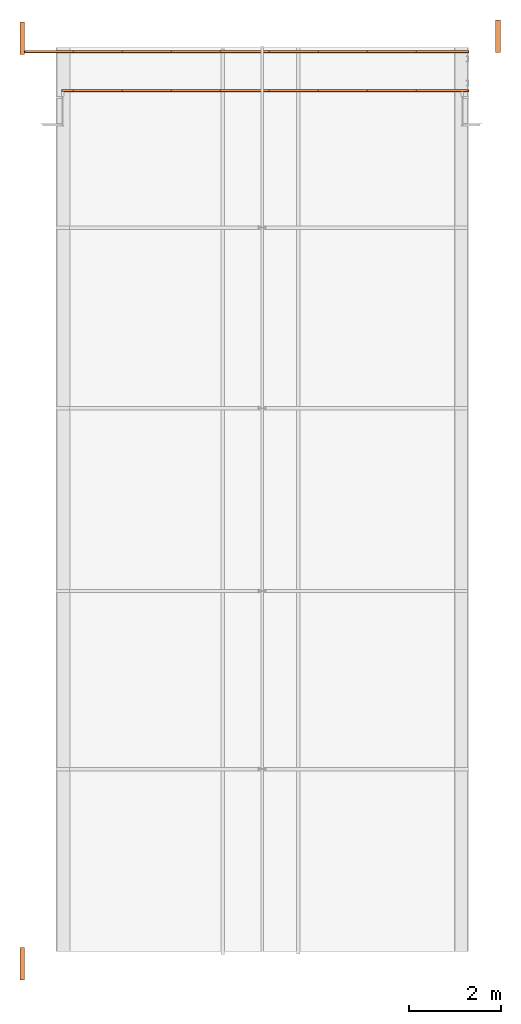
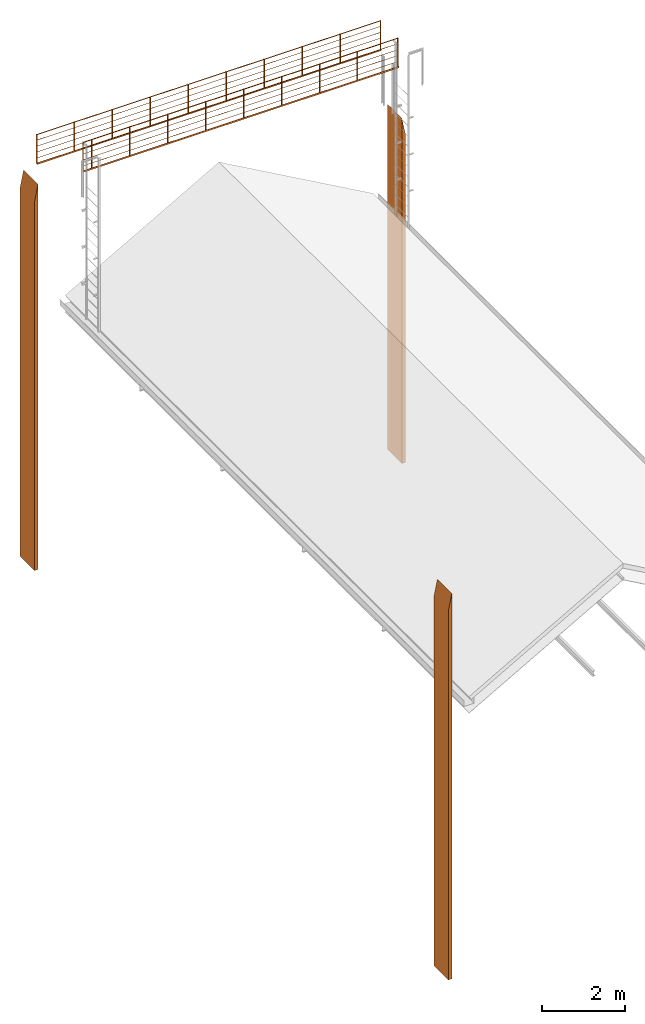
# One storey, part 10 of 10: 5 proxies.
"""IFC2X3 building model written with IfcOpenShell, lengths in metres."""

from ifc_helpers import new_model, entity, si_unit, converted_unit, derived_unit, direction, frame, frame_2d, origin, origin_2d_with_axis, place, context, subcontext, project, spatial, polyline, rectangle, circle, outline, extrude, source, transform, mapped, material, material_list, type_object, type_shapes, element, save


model = new_model("IFC2X3")

# Units and contexts
model_context = context("Model", 3, precision=1e-05, world=origin(), true_north=direction((6.12303176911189e-17, 1.0)))
body_context = subcontext(model_context, "Body", "Model", "MODEL_VIEW")
ifc_project = project(units=[si_unit("LENGTHUNIT", "METRE"), si_unit("AREAUNIT", "SQUARE_METRE"), si_unit("VOLUMEUNIT", "CUBIC_METRE"), converted_unit("PLANEANGLEUNIT", "DEGREE", entity("IfcRatioMeasure", 0.0174532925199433), si_unit("PLANEANGLEUNIT", "RADIAN"), dimensions=[0, 0, 0, 0, 0, 0, 0]), si_unit("MASSUNIT", "GRAM", prefix="KILO"), derived_unit("MASSDENSITYUNIT", [(si_unit("MASSUNIT", "GRAM", prefix="KILO"), 1), (si_unit("LENGTHUNIT", "METRE"), -3)]), derived_unit("MOMENTOFINERTIAUNIT", [(si_unit("LENGTHUNIT", "METRE"), 4)]), si_unit("TIMEUNIT", "SECOND"), si_unit("FREQUENCYUNIT", "HERTZ"), si_unit("THERMODYNAMICTEMPERATUREUNIT", "DEGREE_CELSIUS"), derived_unit("THERMALTRANSMITTANCEUNIT", [(si_unit("MASSUNIT", "GRAM", prefix="KILO"), 1), (si_unit("THERMODYNAMICTEMPERATUREUNIT", "KELVIN"), -1), (si_unit("TIMEUNIT", "SECOND"), -3)]), derived_unit("VOLUMETRICFLOWRATEUNIT", [(si_unit("LENGTHUNIT", "METRE"), 3), (si_unit("TIMEUNIT", "SECOND"), -1)]), si_unit("ELECTRICCURRENTUNIT", "AMPERE"), si_unit("ELECTRICVOLTAGEUNIT", "VOLT"), si_unit("POWERUNIT", "WATT"), si_unit("FORCEUNIT", "NEWTON", prefix="KILO"), si_unit("ILLUMINANCEUNIT", "LUX"), si_unit("LUMINOUSFLUXUNIT", "LUMEN"), si_unit("LUMINOUSINTENSITYUNIT", "CANDELA"), derived_unit("USERDEFINED", [(si_unit("MASSUNIT", "GRAM", prefix="KILO"), -1), (si_unit("LENGTHUNIT", "METRE"), -2), (si_unit("TIMEUNIT", "SECOND"), 3), (si_unit("LUMINOUSFLUXUNIT", "LUMEN"), 1)]), derived_unit("LINEARVELOCITYUNIT", [(si_unit("LENGTHUNIT", "METRE"), 1), (si_unit("TIMEUNIT", "SECOND"), -1)]), si_unit("PRESSUREUNIT", "PASCAL"), derived_unit("USERDEFINED", [(si_unit("LENGTHUNIT", "METRE"), -2), (si_unit("MASSUNIT", "GRAM", prefix="KILO"), 1), (si_unit("TIMEUNIT", "SECOND"), -2)]), derived_unit("LINEARFORCEUNIT", [(si_unit("MASSUNIT", "GRAM", prefix="KILO"), 1), (si_unit("LENGTHUNIT", "METRE"), 1), (si_unit("TIMEUNIT", "SECOND"), -2), (si_unit("LENGTHUNIT", "METRE"), -1)]), derived_unit("PLANARFORCEUNIT", [(si_unit("MASSUNIT", "GRAM", prefix="KILO"), 1), (si_unit("LENGTHUNIT", "METRE"), 1), (si_unit("TIMEUNIT", "SECOND"), -2), (si_unit("LENGTHUNIT", "METRE"), -2)])], contexts=[model_context])

# Site, building, storey
site_placement = place(None, origin())
site = spatial("IfcSite", under=ifc_project, at=site_placement, Name="Superficie", CompositionType="ELEMENT")
building_placement = place(site_placement, origin())
building = spatial("IfcBuilding", under=site, at=building_placement, Name="Telegestiones", CompositionType="ELEMENT")
storey_placement = place(building_placement, frame((0.0, 0.0, 13.23)))
storey = spatial("IfcBuildingStorey", under=building, at=storey_placement, Name="Nivel 3_SUP", CompositionType="ELEMENT", Elevation=13.23)

# Proxies
ifc_material_1 = material(Name="Albañilería expuesta")
ifc_material_list_1 = material_list([ifc_material_1, ifc_material_1])
ifc_material_list_2 = material_list([ifc_material_1, ifc_material_1])
building_element_proxy_type_1 = type_object("IfcBuildingElementProxyType", Name="ARQ-MU-EXT-Lad:Tipo 1", PredefinedType="NOTDEFINED", material=ifc_material_list_2)
shared_shape_1 = source(origin(), body_context, "Body", "SweptSolid", [
    extrude(outline(polyline([(-0.333333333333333, -0.0333333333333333), (0.166666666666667, -0.0333333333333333), (0.166666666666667, 0.0666666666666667), (-0.333333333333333, -0.0333333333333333)])), frame((-0.225000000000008, 0.373333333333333, 0.166666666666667), z_axis=(1.0, 0.0, 0.0), x_axis=(0.0, 0.0, -1.0)), (0.0, 0.0, 1.0), 0.7),
    extrude(rectangle(XDim=0.1, YDim=0.7, at=origin_2d_with_axis()), frame((0.124999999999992, 0.39, -10.88), z_axis=(0.0, 0.0, 1.0), x_axis=(0.0, -1.0, 0.0)), (0.0, 0.0, 1.0), 10.88),
])
type_shapes(building_element_proxy_type_1, [shared_shape_1])
proxy_1_placement = place(storey_placement, frame((5.69428977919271, 13.8229182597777, 3.57), z_axis=(0.0, 0.0, 1.0), x_axis=(0.0, 1.0, 0.0)))
element("IfcBuildingElementProxy", 1, at=proxy_1_placement, inside=storey, type_object=building_element_proxy_type_1, material=ifc_material_list_1, Name="ARQ-MU-EXT-Lad:Tipo 1", ObjectType="ARQ-MU-EXT-Lad:Tipo 1", context=body_context, shape_type="MappedRepresentation", body=[
    mapped(shared_shape_1, transform((0.0, 0.0, 0.0), scale=1.0)),
])
proxy_2_placement = place(storey_placement, frame((5.69428977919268, -6.20141348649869, 3.62), z_axis=(0.0, 0.0, 1.0), x_axis=(0.0, 1.0, 0.0)))
element("IfcBuildingElementProxy", 2, at=proxy_2_placement, inside=storey, type_object=building_element_proxy_type_1, material=ifc_material_1, Name="ARQ-MU-EXT-Lad:Tipo 1", ObjectType="ARQ-MU-EXT-Lad:Tipo 1", context=body_context, shape_type="MappedRepresentation", body=[
    mapped(shared_shape_1, transform((0.0, 0.0, 0.0), scale=1.0)),
])
ifc_material_list_3 = material_list([ifc_material_1, ifc_material_1])
building_element_proxy_type_2 = type_object("IfcBuildingElementProxyType", Name="ARQ-MU-EXT-Lad:Tipo 1", PredefinedType="NOTDEFINED", material=ifc_material_list_3)
shared_shape_2 = source(origin(), body_context, "Body", "SweptSolid", [
    extrude(outline(polyline([(-0.333333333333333, -0.0333333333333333), (0.166666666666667, -0.0333333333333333), (0.166666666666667, 0.0666666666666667), (-0.333333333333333, -0.0333333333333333)])), frame((-0.225000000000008, 0.323333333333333, 0.166666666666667), z_axis=(1.0, 0.0, 0.0), x_axis=(0.0, 0.0, -1.0)), (0.0, 0.0, 1.0), 0.7),
    extrude(rectangle(XDim=0.1, YDim=0.7, at=origin_2d_with_axis()), frame((0.124999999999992, 0.34, -9.69999999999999), z_axis=(0.0, 0.0, 1.0), x_axis=(0.0, -1.0, 0.0)), (0.0, 0.0, 1.0), 9.69999999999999),
])
type_shapes(building_element_proxy_type_2, [shared_shape_2])
proxy_3_placement = place(storey_placement, frame((15.2548126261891, 14.1186072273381, 1.92), z_axis=(0.0, 0.0, 1.0), x_axis=(0.0, -1.0, 0.0)))
element("IfcBuildingElementProxy", 3, at=proxy_3_placement, inside=storey, type_object=building_element_proxy_type_2, material=ifc_material_1, Name="ARQ-MU-EXT-Lad:Tipo 1", ObjectType="ARQ-MU-EXT-Lad:Tipo 1", context=body_context, shape_type="MappedRepresentation", body=[
    mapped(shared_shape_2, transform((0.0, 0.0, 0.0), scale=1.0)),
])
ifc_material_2 = material(Name="<Unnamed>")
ifc_material_list_4 = material_list([ifc_material_2, ifc_material_2, ifc_material_2, ifc_material_2, ifc_material_2, ifc_material_2, ifc_material_2, ifc_material_2, ifc_material_2, ifc_material_2, ifc_material_2, ifc_material_2, ifc_material_2, ifc_material_2, ifc_material_2, ifc_material_2])
ifc_material_list_5 = material_list([ifc_material_2, ifc_material_2, ifc_material_2, ifc_material_2, ifc_material_2, ifc_material_2, ifc_material_2, ifc_material_2, ifc_material_2, ifc_material_2, ifc_material_2, ifc_material_2, ifc_material_2, ifc_material_2, ifc_material_2, ifc_material_2])
building_element_proxy_type_3 = type_object("IfcBuildingElementProxyType", Name="ARQ-BAR- Pasarela cubierta 2:ARQ-BAR- Pasarela cubierta 2", PredefinedType="NOTDEFINED", material=ifc_material_list_5)
shared_shape_3 = source(origin(), body_context, "Body", "SweptSolid", [
    extrude(outline(polyline([(-0.0247866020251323, -0.00599999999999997), (0.0303822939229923, -0.00599999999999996), (0.0247866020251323, 0.00600000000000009), (-0.0303822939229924, 0.00600000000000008), (-0.0247866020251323, -0.00599999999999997)])), frame((0.812, 0.0320000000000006, 0.86372204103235), z_axis=(1.0, 0.0, 0.0), x_axis=(0.0, -0.906307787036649, 0.422618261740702)), (0.0, 0.0, 1.0), 8.786),
    extrude(circle(Radius=0.006, at=frame_2d((0.0, -3.38395977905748e-17), x_axis=(1.0, 0.0))), frame((0.812, 0.032585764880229, 0.17), z_axis=(1.0, 0.0, 0.0), x_axis=(0.0, 1.0, 0.0)), (0.0, 0.0, 1.0), 8.786),
    extrude(circle(Radius=0.006, at=origin_2d_with_axis()), frame((0.812, 0.0325857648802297, 0.7), z_axis=(1.0, 0.0, 0.0), x_axis=(0.0, 1.0, 0.0)), (0.0, 0.0, 1.0), 8.786),
    extrude(circle(Radius=0.006, at=origin_2d_with_axis()), frame((0.812, 0.0325857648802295, 0.52), z_axis=(1.0, 0.0, 0.0), x_axis=(0.0, 1.0, 0.0)), (0.0, 0.0, 1.0), 8.786),
    extrude(circle(Radius=0.006, at=origin_2d_with_axis()), frame((0.812, 0.0325857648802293, 0.35), z_axis=(1.0, 0.0, 0.0), x_axis=(0.0, 1.0, 0.0)), (0.0, 0.0, 1.0), 8.786),
    extrude(rectangle(XDim=0.0119999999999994, YDim=0.05, at=frame_2d((0.0, -3.46944695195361e-18), x_axis=(1.0, 0.0))), frame((9.604, 0.0319999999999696, 0.0), z_axis=(0.0, 0.0, 1.0), x_axis=(-1.0, 0.0, 0.0)), (0.0, 0.0, 1.0), 0.87),
    extrude(rectangle(XDim=0.0119999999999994, YDim=0.05, at=frame_2d((0.0, -3.46944695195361e-18), x_axis=(1.0, 0.0))), frame((8.47399999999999, 0.0319999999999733, 0.0), z_axis=(0.0, 0.0, 1.0), x_axis=(-1.0, 0.0, 0.0)), (0.0, 0.0, 1.0), 0.87),
    extrude(rectangle(XDim=0.0119999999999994, YDim=0.05, at=frame_2d((-1.08290112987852e-15, 8.67361737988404e-18), x_axis=(1.0, 0.0))), frame((7.414, 0.0319999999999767, 0.0), z_axis=(0.0, 0.0, 1.0), x_axis=(-1.0, 0.0, 0.0)), (0.0, 0.0, 1.0), 0.87),
    extrude(rectangle(XDim=0.0119999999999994, YDim=0.05, at=origin_2d_with_axis()), frame((6.354, 0.0319999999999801, 0.0), z_axis=(0.0, 0.0, 1.0), x_axis=(-1.0, 0.0, 0.0)), (0.0, 0.0, 1.0), 0.87),
    extrude(rectangle(XDim=0.0119999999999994, YDim=0.05, at=frame_2d((0.0, -6.93889390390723e-18), x_axis=(1.0, 0.0))), frame((5.294, 0.0319999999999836, 0.0), z_axis=(0.0, 0.0, 1.0), x_axis=(-1.0, 0.0, 0.0)), (0.0, 0.0, 1.0), 0.87),
    extrude(rectangle(XDim=0.012, YDim=0.05, at=frame_2d((2.70616862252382e-16, 5.20417042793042e-18), x_axis=(1.0, 0.0))), frame((4.234, 0.031999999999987, 0.0), z_axis=(0.0, 0.0, 1.0), x_axis=(-1.0, 0.0, 0.0)), (0.0, 0.0, 1.0), 0.87),
    extrude(rectangle(XDim=0.012, YDim=0.05, at=frame_2d((2.70616862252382e-16, 8.67361737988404e-18), x_axis=(1.0, 0.0))), frame((3.174, 0.0319999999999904, 0.0), z_axis=(0.0, 0.0, 1.0), x_axis=(-1.0, 0.0, 0.0)), (0.0, 0.0, 1.0), 0.87),
    extrude(rectangle(XDim=0.012, YDim=0.05, at=frame_2d((2.70616862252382e-16, 0.0), x_axis=(1.0, 0.0))), frame((2.114, 0.0319999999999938, 0.0), z_axis=(0.0, 0.0, 1.0), x_axis=(-1.0, 0.0, 0.0)), (0.0, 0.0, 1.0), 0.87),
    extrude(rectangle(XDim=0.012, YDim=0.05, at=frame_2d((0.0, -6.93889390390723e-18), x_axis=(1.0, 0.0))), frame((1.054, 0.0319999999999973, 0.0), z_axis=(0.0, 0.0, 1.0), x_axis=(-1.0, 0.0, 0.0)), (0.0, 0.0, 1.0), 0.87),
    extrude(rectangle(XDim=0.012, YDim=0.05, at=frame_2d((0.0, -6.93889390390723e-18), x_axis=(1.0, 0.0))), frame((0.806, 0.0319999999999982, 0.0), z_axis=(0.0, 0.0, 1.0), x_axis=(-1.0, 0.0, 0.0)), (0.0, 0.0, 1.0), 0.87),
    extrude(outline(polyline([(-0.0189999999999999, -0.019), (0.0309999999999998, -0.019), (0.0309999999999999, -0.012), (-0.0119999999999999, -0.012), (-0.012, 0.031), (-0.019, 0.031), (-0.0189999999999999, -0.019)])), frame((0.8, 0.0189999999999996, 0.0189999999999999), z_axis=(1.0, 0.0, 0.0), x_axis=(0.0, 1.0, 0.0)), (0.0, 0.0, 1.0), 8.81),
])
type_shapes(building_element_proxy_type_3, [shared_shape_3])
proxy_4_placement = place(storey_placement, frame((5.35428977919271, 12.7857072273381, 4.63)))
element("IfcBuildingElementProxy", 4, at=proxy_4_placement, inside=storey, type_object=building_element_proxy_type_3, material=ifc_material_list_4, Name="ARQ-BAR- Pasarela cubierta 2:ARQ-BAR- Pasarela cubierta 2", ObjectType="ARQ-BAR- Pasarela cubierta 2:ARQ-BAR- Pasarela cubierta 2", context=body_context, shape_type="MappedRepresentation", body=[
    mapped(shared_shape_3, transform((0.0, 0.0, 0.0), scale=1.0)),
])
ifc_material_list_6 = material_list([ifc_material_2, ifc_material_2, ifc_material_2, ifc_material_2, ifc_material_2, ifc_material_2, ifc_material_2, ifc_material_2, ifc_material_2, ifc_material_2, ifc_material_2, ifc_material_2, ifc_material_2, ifc_material_2, ifc_material_2, ifc_material_2])
ifc_material_list_7 = material_list([ifc_material_2, ifc_material_2, ifc_material_2, ifc_material_2, ifc_material_2, ifc_material_2, ifc_material_2, ifc_material_2, ifc_material_2, ifc_material_2, ifc_material_2, ifc_material_2, ifc_material_2, ifc_material_2, ifc_material_2, ifc_material_2])
building_element_proxy_type_4 = type_object("IfcBuildingElementProxyType", Name="ARQ-BAR- Pasarela cubierta:ARQ-BAR- Pasarela cubierta", PredefinedType="NOTDEFINED", material=ifc_material_list_7)
shared_shape_4 = source(origin(), body_context, "Body", "SweptSolid", [
    extrude(outline(polyline([(-0.0247866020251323, -0.00599999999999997), (0.0303822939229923, -0.00599999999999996), (0.0247866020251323, 0.00600000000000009), (-0.0303822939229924, 0.00600000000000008), (-0.0247866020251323, -0.00599999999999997)])), frame((0.012, 0.0320000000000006, 0.86372204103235), z_axis=(1.0, 0.0, 0.0), x_axis=(0.0, -0.906307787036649, 0.422618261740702)), (0.0, 0.0, 1.0), 9.586),
    extrude(circle(Radius=0.006, at=frame_2d((0.0, -3.38395977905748e-17), x_axis=(1.0, 0.0))), frame((0.012, 0.032585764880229, 0.17), z_axis=(1.0, 0.0, 0.0), x_axis=(0.0, 1.0, 0.0)), (0.0, 0.0, 1.0), 9.586),
    extrude(circle(Radius=0.006, at=origin_2d_with_axis()), frame((0.012, 0.0325857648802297, 0.7), z_axis=(1.0, 0.0, 0.0), x_axis=(0.0, 1.0, 0.0)), (0.0, 0.0, 1.0), 9.586),
    extrude(circle(Radius=0.006, at=origin_2d_with_axis()), frame((0.012, 0.0325857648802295, 0.52), z_axis=(1.0, 0.0, 0.0), x_axis=(0.0, 1.0, 0.0)), (0.0, 0.0, 1.0), 9.586),
    extrude(circle(Radius=0.006, at=origin_2d_with_axis()), frame((0.012, 0.0325857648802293, 0.35), z_axis=(1.0, 0.0, 0.0), x_axis=(0.0, 1.0, 0.0)), (0.0, 0.0, 1.0), 9.586),
    extrude(rectangle(XDim=0.0119999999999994, YDim=0.05, at=frame_2d((0.0, -3.46944695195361e-18), x_axis=(1.0, 0.0))), frame((9.604, 0.0319999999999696, 0.0), z_axis=(0.0, 0.0, 1.0), x_axis=(-1.0, 0.0, 0.0)), (0.0, 0.0, 1.0), 0.87),
    extrude(rectangle(XDim=0.0119999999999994, YDim=0.05, at=frame_2d((0.0, -3.46944695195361e-18), x_axis=(1.0, 0.0))), frame((8.47399999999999, 0.0319999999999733, 0.0), z_axis=(0.0, 0.0, 1.0), x_axis=(-1.0, 0.0, 0.0)), (0.0, 0.0, 1.0), 0.87),
    extrude(rectangle(XDim=0.0119999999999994, YDim=0.05, at=frame_2d((-1.08290112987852e-15, 8.67361737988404e-18), x_axis=(1.0, 0.0))), frame((7.414, 0.0319999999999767, 0.0), z_axis=(0.0, 0.0, 1.0), x_axis=(-1.0, 0.0, 0.0)), (0.0, 0.0, 1.0), 0.87),
    extrude(rectangle(XDim=0.0119999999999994, YDim=0.05, at=origin_2d_with_axis()), frame((6.354, 0.0319999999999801, 0.0), z_axis=(0.0, 0.0, 1.0), x_axis=(-1.0, 0.0, 0.0)), (0.0, 0.0, 1.0), 0.87),
    extrude(rectangle(XDim=0.0119999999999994, YDim=0.05, at=frame_2d((0.0, -6.93889390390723e-18), x_axis=(1.0, 0.0))), frame((5.294, 0.0319999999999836, 0.0), z_axis=(0.0, 0.0, 1.0), x_axis=(-1.0, 0.0, 0.0)), (0.0, 0.0, 1.0), 0.87),
    extrude(rectangle(XDim=0.012, YDim=0.05, at=frame_2d((2.70616862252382e-16, 5.20417042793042e-18), x_axis=(1.0, 0.0))), frame((4.234, 0.031999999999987, 0.0), z_axis=(0.0, 0.0, 1.0), x_axis=(-1.0, 0.0, 0.0)), (0.0, 0.0, 1.0), 0.87),
    extrude(rectangle(XDim=0.012, YDim=0.05, at=frame_2d((2.70616862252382e-16, 8.67361737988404e-18), x_axis=(1.0, 0.0))), frame((3.174, 0.0319999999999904, 0.0), z_axis=(0.0, 0.0, 1.0), x_axis=(-1.0, 0.0, 0.0)), (0.0, 0.0, 1.0), 0.87),
    extrude(rectangle(XDim=0.012, YDim=0.05, at=frame_2d((2.70616862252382e-16, 0.0), x_axis=(1.0, 0.0))), frame((2.114, 0.0319999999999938, 0.0), z_axis=(0.0, 0.0, 1.0), x_axis=(-1.0, 0.0, 0.0)), (0.0, 0.0, 1.0), 0.87),
    extrude(rectangle(XDim=0.012, YDim=0.05, at=frame_2d((0.0, -6.93889390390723e-18), x_axis=(1.0, 0.0))), frame((1.054, 0.0319999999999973, 0.0), z_axis=(0.0, 0.0, 1.0), x_axis=(-1.0, 0.0, 0.0)), (0.0, 0.0, 1.0), 0.87),
    extrude(rectangle(XDim=0.012, YDim=0.05, at=frame_2d((0.0, -6.93889390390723e-18), x_axis=(1.0, 0.0))), frame((0.00599999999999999, 0.0320000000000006, 0.0), z_axis=(0.0, 0.0, 1.0), x_axis=(-1.0, 0.0, 0.0)), (0.0, 0.0, 1.0), 0.87),
    extrude(outline(polyline([(-0.0189999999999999, -0.019), (0.0309999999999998, -0.019), (0.0309999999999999, -0.012), (-0.0119999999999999, -0.012), (-0.012, 0.031), (-0.019, 0.031), (-0.0189999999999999, -0.019)])), frame((0.0, 0.0189999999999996, 0.0189999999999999), z_axis=(1.0, 0.0, 0.0), x_axis=(0.0, 1.0, 0.0)), (0.0, 0.0, 1.0), 9.61),
])
type_shapes(building_element_proxy_type_4, [shared_shape_4])
proxy_5_placement = place(storey_placement, frame((5.35455120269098, 13.6291072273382, 4.63)))
element("IfcBuildingElementProxy", 5, at=proxy_5_placement, inside=storey, type_object=building_element_proxy_type_4, material=ifc_material_list_6, Name="ARQ-BAR- Pasarela cubierta:ARQ-BAR- Pasarela cubierta", ObjectType="ARQ-BAR- Pasarela cubierta:ARQ-BAR- Pasarela cubierta", context=body_context, shape_type="MappedRepresentation", body=[
    mapped(shared_shape_4, transform((0.0, 0.0, 0.0), scale=1.0)),
])

save(model, "model.ifc")
